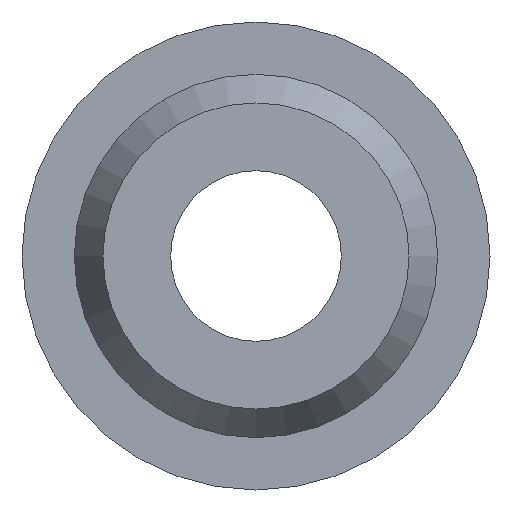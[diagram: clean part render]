
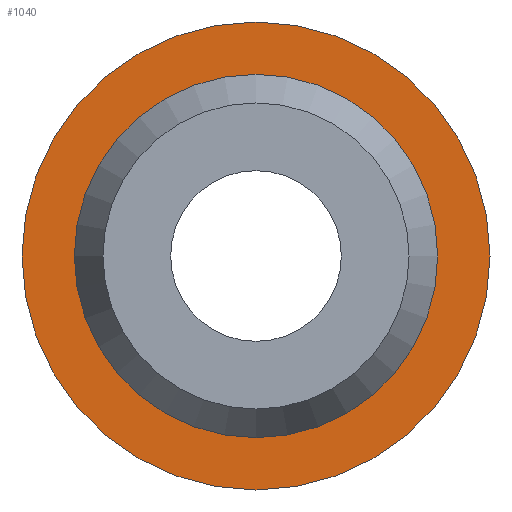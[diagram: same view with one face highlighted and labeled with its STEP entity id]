
A CAD part, front view. The second image highlights one B-rep face of the part: STEP entity #1040.
In plain terms, the highlighted planar face has unit normal (0, -1, 0).
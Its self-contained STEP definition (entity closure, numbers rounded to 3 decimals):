
#150=CARTESIAN_POINT('',(6.6,6.5,0.0));
#151=VERTEX_POINT('',#150);
#152=CARTESIAN_POINT('',(0.0,6.5,0.0));
#153=DIRECTION('',(0.0,-1.0,0.0));
#154=DIRECTION('',(1.0,0.0,0.0));
#155=AXIS2_PLACEMENT_3D('',#152,#153,#154);
#156=CIRCLE('',#155,6.6);
#157=EDGE_CURVE('',#151,#151,#156,.T.);
#1014=CARTESIAN_POINT('',(8.5,6.5,0.0));
#1015=VERTEX_POINT('',#1014);
#1016=CARTESIAN_POINT('',(0.0,6.5,0.0));
#1017=DIRECTION('',(0.0,-1.0,0.0));
#1018=DIRECTION('',(1.0,0.0,0.0));
#1019=AXIS2_PLACEMENT_3D('',#1016,#1017,#1018);
#1020=CIRCLE('',#1019,8.5);
#1021=EDGE_CURVE('',#1015,#1015,#1020,.T.);
#1029=CARTESIAN_POINT('',(7.55,6.5,0.0));
#1030=DIRECTION('',(0.0,-1.0,0.0));
#1031=DIRECTION('',(0.0,0.0,-1.0));
#1032=AXIS2_PLACEMENT_3D('',#1029,#1030,#1031);
#1033=PLANE('',#1032);
#1034=ORIENTED_EDGE('',*,*,#1021,.T.);
#1035=EDGE_LOOP('',(#1034));
#1036=FACE_OUTER_BOUND('',#1035,.T.);
#1037=ORIENTED_EDGE('',*,*,#157,.F.);
#1038=EDGE_LOOP('',(#1037));
#1039=FACE_BOUND('',#1038,.T.);
#1040=ADVANCED_FACE('',(#1036,#1039),#1033,.T.);
